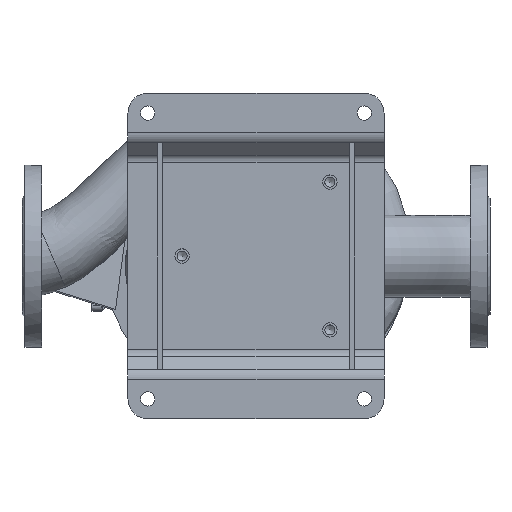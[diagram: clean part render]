
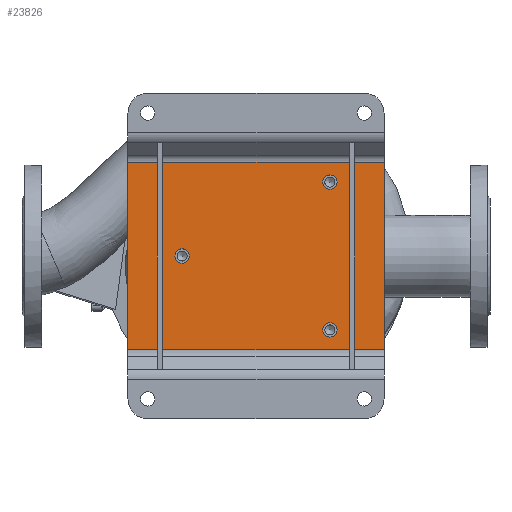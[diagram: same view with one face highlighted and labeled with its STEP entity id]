
A CAD part, top view. The second image highlights one B-rep face of the part: STEP entity #23826.
In plain terms, the highlighted planar face has unit normal (0, 0, 1) as drawn and (0, -1, 0) by its records, which use the part's own axes.
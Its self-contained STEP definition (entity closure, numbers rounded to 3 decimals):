
#756 = VERTEX_POINT ( 'NONE', #89329 ) ;
#926 = DIRECTION ( 'NONE',  ( 0., 0., -1. ) ) ;
#3652 = DIRECTION ( 'NONE',  ( 0., 0., -1. ) ) ;
#4673 = CIRCLE ( 'NONE', #20443, 7.25 ) ;
#5194 = VECTOR ( 'NONE', #97220, 1000. ) ;
#11914 = EDGE_CURVE ( 'NONE', #756, #45109, #40324, .T. ) ;
#11916 = ORIENTED_EDGE ( 'NONE', *, *, #89914, .F. ) ;
#16171 = LINE ( 'NONE', #75700, #56952 ) ;
#16344 = LINE ( 'NONE', #52076, #5194 ) ;
#16498 = CARTESIAN_POINT ( 'NONE',  ( 95., -5., 130. ) ) ;
#18661 = EDGE_LOOP ( 'NONE', ( #25588 ) ) ;
#20443 = AXIS2_PLACEMENT_3D ( 'NONE', #95054, #77756, #70309 ) ;
#21951 = EDGE_LOOP ( 'NONE', ( #11916 ) ) ;
#22899 = VERTEX_POINT ( 'NONE', #90279 ) ;
#23826 = ADVANCED_FACE ( 'NONE', ( #35048, #40519, #42461, #70755 ), #41983, .T. ) ;
#25588 = ORIENTED_EDGE ( 'NONE', *, *, #88574, .F. ) ;
#30232 = VERTEX_POINT ( 'NONE', #16498 ) ;
#30938 = EDGE_LOOP ( 'NONE', ( #89794, #54160, #95295, #64610 ) ) ;
#35048 = FACE_BOUND ( 'NONE', #18661, .T. ) ;
#37754 = DIRECTION ( 'NONE',  ( 1., 0., 0. ) ) ;
#39499 = VECTOR ( 'NONE', #37754, 1000. ) ;
#39611 = EDGE_CURVE ( 'NONE', #40919, #40919, #74148, .T. ) ;
#40324 = LINE ( 'NONE', #70558, #86401 ) ;
#40519 = FACE_BOUND ( 'NONE', #88323, .T. ) ;
#40919 = VERTEX_POINT ( 'NONE', #63199 ) ;
#41983 = PLANE ( 'NONE',  #50289 ) ;
#42068 = VERTEX_POINT ( 'NONE', #86924 ) ;
#42461 = FACE_BOUND ( 'NONE', #21951, .T. ) ;
#45109 = VERTEX_POINT ( 'NONE', #72203 ) ;
#45623 = AXIS2_PLACEMENT_3D ( 'NONE', #52483, #98095, #926 ) ;
#46170 = VERTEX_POINT ( 'NONE', #46654 ) ;
#46654 = CARTESIAN_POINT ( 'NONE',  ( -75., -5., 67.75 ) ) ;
#48739 = CARTESIAN_POINT ( 'NONE',  ( 75., -5., 75. ) ) ;
#50289 = AXIS2_PLACEMENT_3D ( 'NONE', #63289, #72701, #64255 ) ;
#50765 = CIRCLE ( 'NONE', #61786, 7.25 ) ;
#51893 = DIRECTION ( 'NONE',  ( -1., 0., 0. ) ) ;
#52076 = CARTESIAN_POINT ( 'NONE',  ( 95., -5., 130. ) ) ;
#52483 = CARTESIAN_POINT ( 'NONE',  ( 0., -5., -75. ) ) ;
#54160 = ORIENTED_EDGE ( 'NONE', *, *, #91760, .F. ) ;
#56952 = VECTOR ( 'NONE', #83617, 1000. ) ;
#59688 = EDGE_CURVE ( 'NONE', #30232, #756, #16344, .T. ) ;
#61786 = AXIS2_PLACEMENT_3D ( 'NONE', #48739, #72051, #3652 ) ;
#61989 = CARTESIAN_POINT ( 'NONE',  ( -95., -5., 130. ) ) ;
#62479 = LINE ( 'NONE', #61989, #39499 ) ;
#63199 = CARTESIAN_POINT ( 'NONE',  ( 0., -5., -82.25 ) ) ;
#63289 = CARTESIAN_POINT ( 'NONE',  ( 0., -5., 0. ) ) ;
#64255 = DIRECTION ( 'NONE',  ( 0., 0., -1. ) ) ;
#64610 = ORIENTED_EDGE ( 'NONE', *, *, #11914, .F. ) ;
#70309 = DIRECTION ( 'NONE',  ( 0., 0., -1. ) ) ;
#70558 = CARTESIAN_POINT ( 'NONE',  ( -95., -5., -130. ) ) ;
#70755 = FACE_OUTER_BOUND ( 'NONE', #30938, .T. ) ;
#72051 = DIRECTION ( 'NONE',  ( 0., -1., 0. ) ) ;
#72203 = CARTESIAN_POINT ( 'NONE',  ( -95., -5., -130. ) ) ;
#72701 = DIRECTION ( 'NONE',  ( 0., -1., 0. ) ) ;
#74148 = CIRCLE ( 'NONE', #45623, 7.25 ) ;
#74521 = ORIENTED_EDGE ( 'NONE', *, *, #39611, .F. ) ;
#75700 = CARTESIAN_POINT ( 'NONE',  ( -95., -5., 130. ) ) ;
#77756 = DIRECTION ( 'NONE',  ( 0., -1., 0. ) ) ;
#83617 = DIRECTION ( 'NONE',  ( 0., 0., 1. ) ) ;
#86401 = VECTOR ( 'NONE', #51893, 1000. ) ;
#86924 = CARTESIAN_POINT ( 'NONE',  ( -95., -5., 130. ) ) ;
#88323 = EDGE_LOOP ( 'NONE', ( #74521 ) ) ;
#88574 = EDGE_CURVE ( 'NONE', #22899, #22899, #50765, .T. ) ;
#89329 = CARTESIAN_POINT ( 'NONE',  ( 95., -5., -130. ) ) ;
#89794 = ORIENTED_EDGE ( 'NONE', *, *, #59688, .F. ) ;
#89914 = EDGE_CURVE ( 'NONE', #46170, #46170, #4673, .T. ) ;
#90279 = CARTESIAN_POINT ( 'NONE',  ( 75., -5., 67.75 ) ) ;
#91760 = EDGE_CURVE ( 'NONE', #42068, #30232, #62479, .T. ) ;
#94298 = EDGE_CURVE ( 'NONE', #45109, #42068, #16171, .T. ) ;
#95054 = CARTESIAN_POINT ( 'NONE',  ( -75., -5., 75. ) ) ;
#95295 = ORIENTED_EDGE ( 'NONE', *, *, #94298, .F. ) ;
#97220 = DIRECTION ( 'NONE',  ( 0., 0., -1. ) ) ;
#98095 = DIRECTION ( 'NONE',  ( 0., -1., 0. ) ) ;
